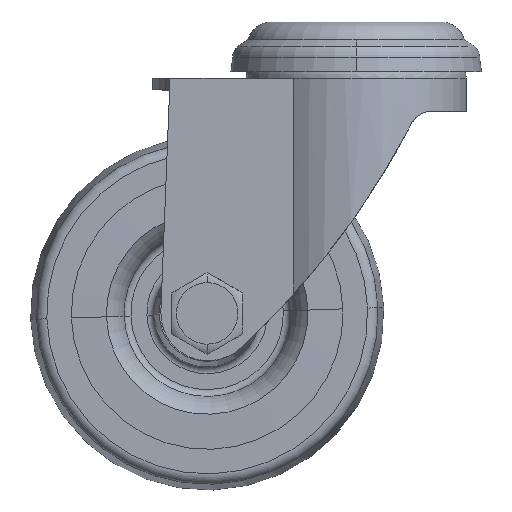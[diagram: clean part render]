
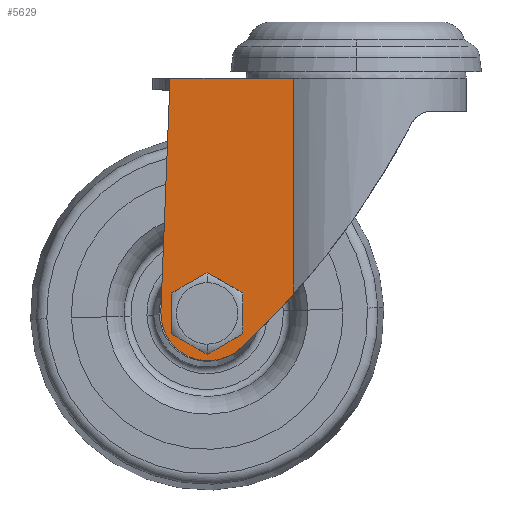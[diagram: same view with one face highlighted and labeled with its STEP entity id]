
A CAD part, front view. The second image highlights one B-rep face of the part: STEP entity #5629.
In plain terms, the highlighted planar face has unit normal (0, -1, 0).
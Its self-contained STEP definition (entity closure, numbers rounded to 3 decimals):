
#80 = VERTEX_POINT ( 'NONE', #1004 ) ;
#107 = EDGE_CURVE ( 'NONE', #80, #112, #1051, .T. ) ;
#112 = VERTEX_POINT ( 'NONE', #1104 ) ;
#1004 = CARTESIAN_POINT ( 'NONE',  ( 0.165, -18.036, 17.015 ) ) ;
#1050 = CARTESIAN_POINT ( 'NONE',  ( 0.165, -18.036, 17.015 ) ) ;
#1051 = LINE ( 'NONE', #1050, #1113 ) ;
#1104 = CARTESIAN_POINT ( 'NONE',  ( 0.165, -18.036, -13.423 ) ) ;
#1112 = DIRECTION ( 'NONE',  ( 0., 0., -1. ) ) ;
#1113 = VECTOR ( 'NONE', #1112, 1000. ) ;
#2870 = DIRECTION ( 'NONE',  ( 0., 0., 1. ) ) ;
#2871 = DIRECTION ( 'NONE',  ( 0., 1., 0. ) ) ;
#2872 = CARTESIAN_POINT ( 'NONE',  ( -11.873, -18.036, -16.155 ) ) ;
#2873 = AXIS2_PLACEMENT_3D ( 'NONE', #2872, #2871, #2870 ) ;
#2880 = CIRCLE ( 'NONE', #2873, 6.673 ) ;
#4145 = CARTESIAN_POINT ( 'NONE',  ( -12.015, -18.036, -16.158 ) ) ;
#4203 = CARTESIAN_POINT ( 'NONE',  ( -17.285, -18.036, 17.015 ) ) ;
#4212 = DIRECTION ( 'NONE',  ( 1., 0., 0. ) ) ;
#4213 = DIRECTION ( 'NONE',  ( 0., -1., 0. ) ) ;
#4215 = AXIS2_PLACEMENT_3D ( 'NONE', #4145, #4213, #4212 ) ;
#4220 = CIRCLE ( 'NONE', #4215, 4.1 ) ;
#4235 = CIRCLE ( 'NONE', #4291, 4.1 ) ;
#4236 = AXIS2_PLACEMENT_3D ( 'NONE', #4302, #4301, #4300 ) ;
#4243 = FACE_OUTER_BOUND ( 'NONE', #5716, .T. ) ;
#4252 = PLANE ( 'NONE',  #4236 ) ;
#4260 = FACE_BOUND ( 'NONE', #5665, .T. ) ;
#4283 = CARTESIAN_POINT ( 'NONE',  ( -17.353, -18.036, 14.265 ) ) ;
#4288 = DIRECTION ( 'NONE',  ( 1., 0., 0. ) ) ;
#4289 = DIRECTION ( 'NONE',  ( 0., -1., 0. ) ) ;
#4290 = CARTESIAN_POINT ( 'NONE',  ( -12.015, -18.036, -16.158 ) ) ;
#4291 = AXIS2_PLACEMENT_3D ( 'NONE', #4290, #4289, #4288 ) ;
#4294 = CARTESIAN_POINT ( 'NONE',  ( -16.115, -18.036, -16.158 ) ) ;
#4300 = DIRECTION ( 'NONE',  ( 0., 0., 1. ) ) ;
#4301 = DIRECTION ( 'NONE',  ( 0., 1., 0. ) ) ;
#4302 = CARTESIAN_POINT ( 'NONE',  ( -21.935, -18.036, 17.015 ) ) ;
#4309 = CARTESIAN_POINT ( 'NONE',  ( -7.915, -18.036, -16.158 ) ) ;
#4312 = DIRECTION ( 'NONE',  ( 1., 0., 0. ) ) ;
#4313 = VECTOR ( 'NONE', #4312, 1000. ) ;
#4314 = CARTESIAN_POINT ( 'NONE',  ( -21.935, -18.036, 17.015 ) ) ;
#4315 = LINE ( 'NONE', #4314, #4313 ) ;
#4332 = DIRECTION ( 'NONE',  ( 0.039, 0., 0.999 ) ) ;
#4333 = VECTOR ( 'NONE', #4332, 1000. ) ;
#4334 = LINE ( 'NONE', #4335, #4333 ) ;
#4335 = CARTESIAN_POINT ( 'NONE',  ( -18.535, -18.036, -15.767 ) ) ;
#4340 = CARTESIAN_POINT ( 'NONE',  ( -18.535, -18.036, -15.767 ) ) ;
#4362 = CARTESIAN_POINT ( 'NONE',  ( -7.335, -18.036, -21.048 ) ) ;
#4364 = DIRECTION ( 'NONE',  ( -1., 0., 0. ) ) ;
#4365 = DIRECTION ( 'NONE',  ( 0., 1., 0. ) ) ;
#4366 = CARTESIAN_POINT ( 'NONE',  ( -86.596, -18.036, 64.414 ) ) ;
#4369 = AXIS2_PLACEMENT_3D ( 'NONE', #4366, #4365, #4364 ) ;
#4372 = CIRCLE ( 'NONE', #4369, 116.559 ) ;
#4391 = CARTESIAN_POINT ( 'NONE',  ( -17.353, -18.036, 20.21 ) ) ;
#4392 = LINE ( 'NONE', #4391, #4445 ) ;
#4417 = LINE ( 'NONE', #4442, #4441 ) ;
#4440 = DIRECTION ( 'NONE',  ( -0.039, 0., -0.999 ) ) ;
#4441 = VECTOR ( 'NONE', #4440, 1000. ) ;
#4442 = CARTESIAN_POINT ( 'NONE',  ( -17.099, -18.036, 21.748 ) ) ;
#4444 = DIRECTION ( 'NONE',  ( 0., 0., -1. ) ) ;
#4445 = VECTOR ( 'NONE', #4444, 1000. ) ;
#4446 = CARTESIAN_POINT ( 'NONE',  ( -17.353, -18.036, 15.296 ) ) ;
#5024 = ORIENTED_EDGE ( 'NONE', *, *, #5047, .F. ) ;
#5047 = EDGE_CURVE ( 'NONE', #5698, #5669, #2880, .T. ) ;
#5049 = ORIENTED_EDGE ( 'NONE', *, *, #5672, .F. ) ;
#5607 = EDGE_CURVE ( 'NONE', #5656, #5631, #4220, .T. ) ;
#5612 = VERTEX_POINT ( 'NONE', #4203 ) ;
#5628 = ORIENTED_EDGE ( 'NONE', *, *, #5709, .T. ) ;
#5629 = ADVANCED_FACE ( 'NONE', ( #4260, #4243 ), #4252, .F. ) ;
#5631 = VERTEX_POINT ( 'NONE', #4294 ) ;
#5634 = EDGE_CURVE ( 'NONE', #5631, #5656, #4235, .T. ) ;
#5646 = VERTEX_POINT ( 'NONE', #4283 ) ;
#5651 = ORIENTED_EDGE ( 'NONE', *, *, #5607, .F. ) ;
#5652 = EDGE_CURVE ( 'NONE', #5612, #80, #4315, .T. ) ;
#5656 = VERTEX_POINT ( 'NONE', #4309 ) ;
#5665 = EDGE_LOOP ( 'NONE', ( #5651, #5711 ) ) ;
#5669 = VERTEX_POINT ( 'NONE', #4340 ) ;
#5670 = ORIENTED_EDGE ( 'NONE', *, *, #5707, .T. ) ;
#5671 = ORIENTED_EDGE ( 'NONE', *, *, #107, .F. ) ;
#5672 = EDGE_CURVE ( 'NONE', #5669, #5646, #4334, .T. ) ;
#5690 = EDGE_CURVE ( 'NONE', #112, #5698, #4372, .T. ) ;
#5698 = VERTEX_POINT ( 'NONE', #4362 ) ;
#5707 = EDGE_CURVE ( 'NONE', #5719, #5646, #4392, .T. ) ;
#5708 = ORIENTED_EDGE ( 'NONE', *, *, #5652, .F. ) ;
#5709 = EDGE_CURVE ( 'NONE', #5612, #5719, #4417, .T. ) ;
#5711 = ORIENTED_EDGE ( 'NONE', *, *, #5634, .F. ) ;
#5716 = EDGE_LOOP ( 'NONE', ( #5708, #5628, #5670, #5049, #5024, #5733, #5671 ) ) ;
#5719 = VERTEX_POINT ( 'NONE', #4446 ) ;
#5733 = ORIENTED_EDGE ( 'NONE', *, *, #5690, .F. ) ;
